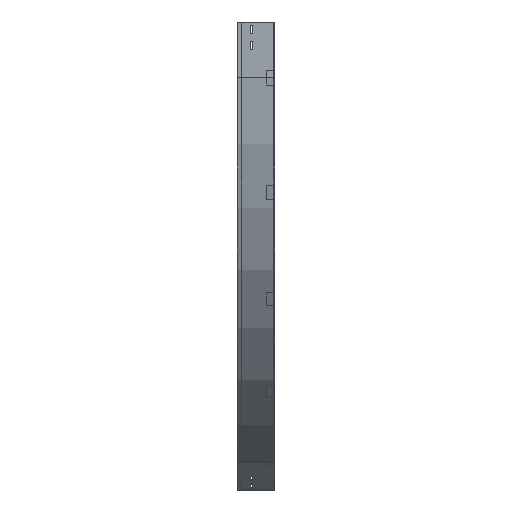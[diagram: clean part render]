
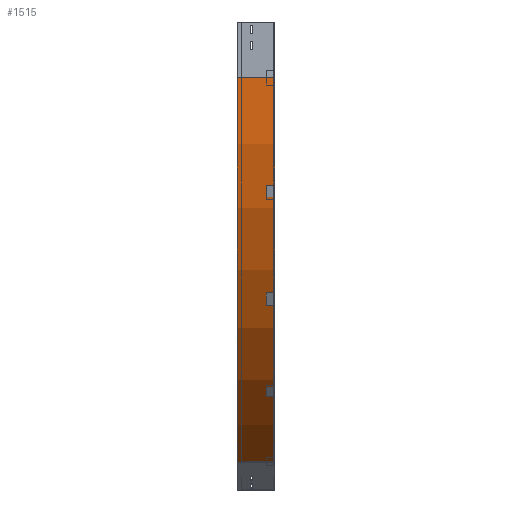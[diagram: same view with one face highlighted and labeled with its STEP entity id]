
A CAD part, left-side view. The second image highlights one B-rep face of the part: STEP entity #1515.
In plain terms, the highlighted cylindrical face has radius 1200 mm (diameter 2400 mm), a partial arc.
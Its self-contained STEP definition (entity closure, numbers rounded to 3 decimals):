
#74 = CARTESIAN_POINT ( 'NONE',  ( 0., 100., -150. ) ) ;
#125 = ORIENTED_EDGE ( 'NONE', *, *, #2128, .F. ) ;
#258 = CARTESIAN_POINT ( 'NONE',  ( 600., 100., -1189.23 ) ) ;
#492 = EDGE_CURVE ( 'NONE', #672, #1570, #3560, .T. ) ;
#506 = ORIENTED_EDGE ( 'NONE', *, *, #2826, .F. ) ;
#537 = DIRECTION ( 'NONE',  ( 0., -1., 0. ) ) ;
#644 = CIRCLE ( 'NONE', #1337, 1200. ) ;
#672 = VERTEX_POINT ( 'NONE', #258 ) ;
#682 = EDGE_LOOP ( 'NONE', ( #125, #506, #2429, #2485 ) ) ;
#723 = CARTESIAN_POINT ( 'NONE',  ( 1200., 0., -150. ) ) ;
#781 = DIRECTION ( 'NONE',  ( -1., 0., 0. ) ) ;
#785 = CARTESIAN_POINT ( 'NONE',  ( 1200., 100., -150. ) ) ;
#929 = CYLINDRICAL_SURFACE ( 'NONE', #3151, 1200. ) ;
#1034 = DIRECTION ( 'NONE',  ( 0., -1., 0. ) ) ;
#1219 = VECTOR ( 'NONE', #2101, 1000. ) ;
#1337 = AXIS2_PLACEMENT_3D ( 'NONE', #723, #1034, #781 ) ;
#1515 = ADVANCED_FACE ( 'NONE', ( #3618 ), #929, .T. ) ;
#1526 = VECTOR ( 'NONE', #2191, 1000. ) ;
#1567 = VERTEX_POINT ( 'NONE', #74 ) ;
#1570 = VERTEX_POINT ( 'NONE', #2486 ) ;
#1730 = CARTESIAN_POINT ( 'NONE',  ( 600., 0., -1189.23 ) ) ;
#1753 = DIRECTION ( 'NONE',  ( 0., 0., -1. ) ) ;
#1811 = VERTEX_POINT ( 'NONE', #2100 ) ;
#2084 = CIRCLE ( 'NONE', #3644, 1200. ) ;
#2100 = CARTESIAN_POINT ( 'NONE',  ( 0., 0., -150. ) ) ;
#2101 = DIRECTION ( 'NONE',  ( 0., -1., 0. ) ) ;
#2128 = EDGE_CURVE ( 'NONE', #1811, #1570, #644, .T. ) ;
#2191 = DIRECTION ( 'NONE',  ( 0., -1., 0. ) ) ;
#2235 = DIRECTION ( 'NONE',  ( -1., 0., 0. ) ) ;
#2416 = EDGE_CURVE ( 'NONE', #1567, #672, #2084, .T. ) ;
#2429 = ORIENTED_EDGE ( 'NONE', *, *, #2416, .T. ) ;
#2485 = ORIENTED_EDGE ( 'NONE', *, *, #492, .T. ) ;
#2486 = CARTESIAN_POINT ( 'NONE',  ( 600., 0., -1189.23 ) ) ;
#2826 = EDGE_CURVE ( 'NONE', #1567, #1811, #3645, .T. ) ;
#3151 = AXIS2_PLACEMENT_3D ( 'NONE', #3862, #537, #1753 ) ;
#3353 = CARTESIAN_POINT ( 'NONE',  ( 0., 0., -150. ) ) ;
#3560 = LINE ( 'NONE', #1730, #1219 ) ;
#3618 = FACE_OUTER_BOUND ( 'NONE', #682, .T. ) ;
#3644 = AXIS2_PLACEMENT_3D ( 'NONE', #785, #3746, #2235 ) ;
#3645 = LINE ( 'NONE', #3353, #1526 ) ;
#3746 = DIRECTION ( 'NONE',  ( 0., -1., 0. ) ) ;
#3862 = CARTESIAN_POINT ( 'NONE',  ( 1200., 0., -150. ) ) ;
